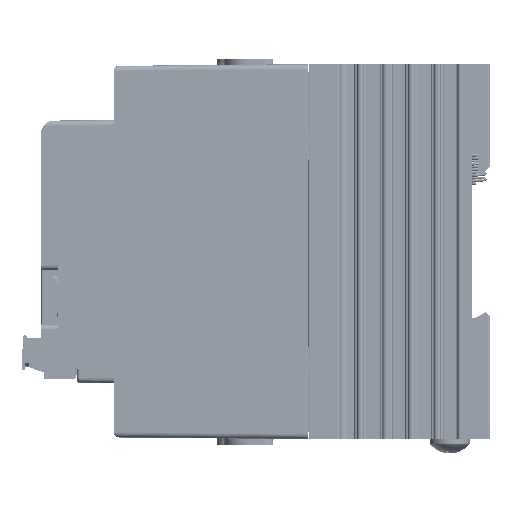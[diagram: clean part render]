
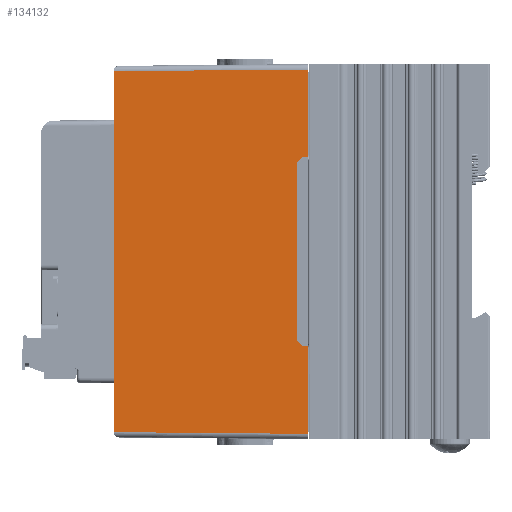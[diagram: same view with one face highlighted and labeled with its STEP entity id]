
A CAD part, left-side view. The second image highlights one B-rep face of the part: STEP entity #134132.
In plain terms, the highlighted planar face has unit normal (-1, 0.009, 0) as drawn and (1, 0, 0.009) by its records, which use the part's own axes.
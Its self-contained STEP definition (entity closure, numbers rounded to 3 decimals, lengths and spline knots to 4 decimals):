
#13690=FACE_OUTER_BOUND('',#20944,.T.);
#20944=EDGE_LOOP('',(#119441,#119442,#119443,#119444,#119445,#119446,#119447,
#119448,#119449,#119450));
#35883=LINE('',#229910,#51403);
#36013=LINE('',#230695,#51533);
#36019=LINE('',#230707,#51539);
#36023=LINE('',#230713,#51543);
#36025=LINE('',#230717,#51545);
#36027=LINE('',#230721,#51547);
#36028=LINE('',#230724,#51548);
#36373=LINE('',#231482,#51893);
#36375=LINE('',#231488,#51895);
#36376=LINE('',#231489,#51896);
#51403=VECTOR('',#175997,0.3937);
#51533=VECTOR('',#176373,0.3937);
#51539=VECTOR('',#176383,0.3937);
#51543=VECTOR('',#176391,0.3937);
#51545=VECTOR('',#176395,0.3937);
#51547=VECTOR('',#176399,0.3937);
#51548=VECTOR('',#176402,0.3937);
#51893=VECTOR('',#177127,0.3937);
#51895=VECTOR('',#177135,0.3937);
#51896=VECTOR('',#177136,0.3937);
#63979=VERTEX_POINT('',#229907);
#63980=VERTEX_POINT('',#229909);
#64083=VERTEX_POINT('',#230692);
#64084=VERTEX_POINT('',#230694);
#64087=VERTEX_POINT('',#230704);
#64088=VERTEX_POINT('',#230706);
#64089=VERTEX_POINT('',#230715);
#64090=VERTEX_POINT('',#230719);
#64091=VERTEX_POINT('',#230723);
#64291=VERTEX_POINT('',#231487);
#82296=EDGE_CURVE('',#63980,#63979,#35883,.T.);
#82484=EDGE_CURVE('',#64084,#64083,#36013,.T.);
#82490=EDGE_CURVE('',#64088,#64087,#36019,.T.);
#82494=EDGE_CURVE('',#64083,#64088,#36023,.T.);
#82496=EDGE_CURVE('',#64087,#64089,#36025,.T.);
#82498=EDGE_CURVE('',#64089,#64090,#36027,.T.);
#82499=EDGE_CURVE('',#64091,#64084,#36028,.T.);
#82865=EDGE_CURVE('',#64091,#63979,#36373,.T.);
#82868=EDGE_CURVE('',#64090,#64291,#36375,.T.);
#82869=EDGE_CURVE('',#63980,#64291,#36376,.T.);
#119441=ORIENTED_EDGE('',*,*,#82498,.T.);
#119442=ORIENTED_EDGE('',*,*,#82868,.T.);
#119443=ORIENTED_EDGE('',*,*,#82869,.F.);
#119444=ORIENTED_EDGE('',*,*,#82296,.T.);
#119445=ORIENTED_EDGE('',*,*,#82865,.F.);
#119446=ORIENTED_EDGE('',*,*,#82499,.T.);
#119447=ORIENTED_EDGE('',*,*,#82484,.T.);
#119448=ORIENTED_EDGE('',*,*,#82494,.T.);
#119449=ORIENTED_EDGE('',*,*,#82490,.T.);
#119450=ORIENTED_EDGE('',*,*,#82496,.T.);
#127504=PLANE('',#143980);
#134132=ADVANCED_FACE('',(#13690),#127504,.T.);
#143980=AXIS2_PLACEMENT_3D('',#231486,#177133,#177134);
#175997=DIRECTION('',(0.,-1.,0.));
#176373=DIRECTION('',(-0.009,0.009,1.));
#176383=DIRECTION('',(0.,1.,0.));
#176391=DIRECTION('',(-0.006,0.71,0.704));
#176395=DIRECTION('',(0.006,0.71,-0.704));
#176399=DIRECTION('',(0.009,0.009,-1.));
#176402=DIRECTION('',(0.,1.,0.));
#177127=DIRECTION('',(-0.009,0.009,1.));
#177133=DIRECTION('center_axis',(1.,0.,
0.009));
#177134=DIRECTION('ref_axis',(0.,1.,0.));
#177135=DIRECTION('',(0.,1.,0.));
#177136=DIRECTION('',(0.009,0.009,-1.));
#229907=CARTESIAN_POINT('',(1.3842,0.0658,1.811));
#229909=CARTESIAN_POINT('',(1.3842,3.4342,1.811));
#229910=CARTESIAN_POINT('',(1.3842,0.,1.811));
#230692=CARTESIAN_POINT('',(1.3995,0.8705,0.0521));
#230694=CARTESIAN_POINT('',(1.4,0.87,0.));
#230695=CARTESIAN_POINT('',(1.3996,0.8704,0.0436));
#230704=CARTESIAN_POINT('',(1.3991,2.5762,0.105));
#230706=CARTESIAN_POINT('',(1.3991,0.9238,0.105));
#230707=CARTESIAN_POINT('',(1.3991,3.0381,0.105));
#230713=CARTESIAN_POINT('',(1.3937,1.5503,0.726));
#230715=CARTESIAN_POINT('',(1.3995,2.6295,0.0521));
#230717=CARTESIAN_POINT('',(1.4015,2.859,-0.1754));
#230719=CARTESIAN_POINT('',(1.4,2.63,0.));
#230721=CARTESIAN_POINT('',(1.4,2.63,0.0023));
#230723=CARTESIAN_POINT('',(1.4,0.05,0.));
#230724=CARTESIAN_POINT('',(1.4,0.,0.));
#231482=CARTESIAN_POINT('',(1.3999,0.0501,0.0148));
#231486=CARTESIAN_POINT('Origin',(1.4,3.5,0.));
#231487=CARTESIAN_POINT('',(1.4,3.45,0.));
#231488=CARTESIAN_POINT('',(1.4,0.,0.));
#231489=CARTESIAN_POINT('',(1.4,3.45,0.0057));
